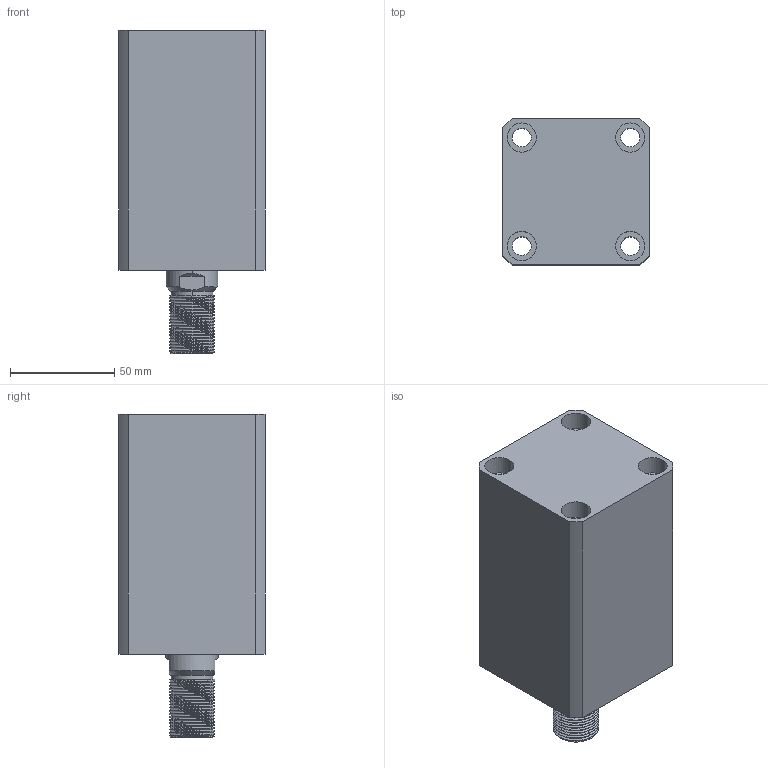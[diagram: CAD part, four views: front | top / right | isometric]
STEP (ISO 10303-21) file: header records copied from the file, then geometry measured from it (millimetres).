
FILE_DESCRIPTION (( 'STEP AP214' ), '1' );
FILE_NAME ('chtb-sd40x60w_asm.STEP', '2018-06-08T03:35:52', ( 'Windows' ), ( 'Microsoft' ), 'SwSTEP 2.0', 'SolidWorks 2015', '' );
FILE_SCHEMA (( 'AUTOMOTIVE_DESIGN' ));
Length unit declared in the file: millimetre
Products named in the file (4): CHTB-SD40QG; CHTB-SD40X60WHSG; CHTB-SD40X60NBT; chtb-sd40x60w_asm
Assembly tree (3 placements, depth 2):
  chtb-sd40x60w_asm
    CHTB-SD40X60NBT
    CHTB-SD40X60WHSG
    CHTB-SD40QG
Bounding box: 70 x 70 x 155 mm (x, y, z)
Volume: 486131.8 mm3; surface area: 96948.6 mm2
Topology: 3 solids, 4 shells, 203 faces, 533 edges, 355 vertices
Faces by surface type: cylinder 118, plane 40, bspline 16, cone 15, torus 14
Entity records: 13425 total; most frequent: CARTESIAN_POINT 8554, ORIENTED_EDGE 1054, DIRECTION 914, EDGE_CURVE 527, AXIS2_PLACEMENT_3D 380, VERTEX_POINT 355, EDGE_LOOP 240, ADVANCED_FACE 203
